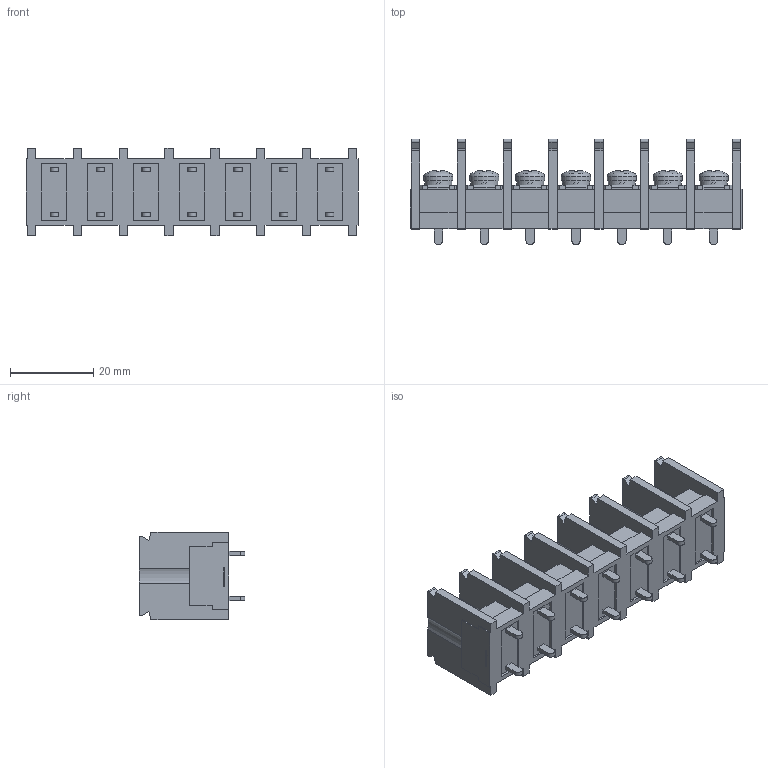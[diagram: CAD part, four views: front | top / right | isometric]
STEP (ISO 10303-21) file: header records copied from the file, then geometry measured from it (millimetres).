
FILE_DESCRIPTION(/* description */ ('Alibre Inc.'),/* implementation_level */ '2;1');
FILE_NAME(/* name */ 'export0',/* time_stamp */ '2015-12-02T12:34:42+09:00',/* author */ (''),/* organization */ (''),/* preprocessor_version */ 'ST-DEVELOPER v14',/* originating_system */ 'Alibre',/* authorisation */ '');
FILE_SCHEMA (('CONFIG_CONTROL_DESIGN'));
Length unit declared in the file: centimetre
Products named in the file (1): ID_1
Bounding box: 79.6 x 25.3 x 21 mm (x, y, z)
Volume: 14467 mm3; surface area: 15469.5 mm2
Topology: 1 solids, 17 shells, 1117 faces, 3028 edges, 2014 vertices
Faces by surface type: plane 876, bspline 104, cylinder 88, cone 35, sphere 7, torus 7
Full cylindrical faces by diameter (mm): 4 x7, 6.5 x7, 7 x7
Entity records: 33563 total; most frequent: CARTESIAN_POINT 7153, ORIENTED_EDGE 6000, DIRECTION 4121, EDGE_CURVE 3000, VECTOR 2303, LINE 2303, VERTEX_POINT 2014, AXIS2_PLACEMENT_3D 1308
